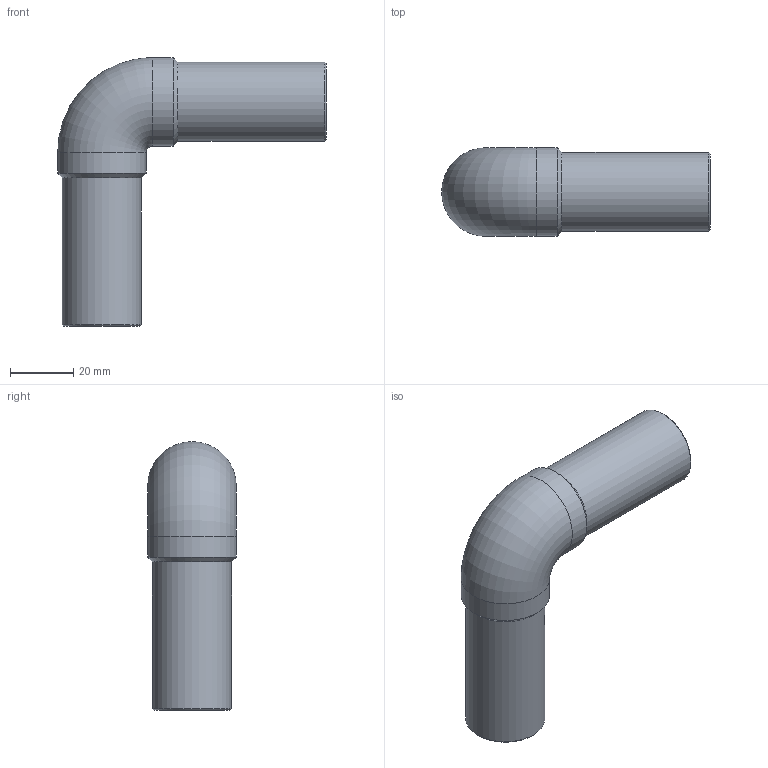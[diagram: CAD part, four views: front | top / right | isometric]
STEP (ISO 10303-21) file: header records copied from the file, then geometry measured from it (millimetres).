
FILE_DESCRIPTION(/* description */ ('Unknown'),/* implementation_level */ '2;1');
FILE_NAME(/* name */ 'G9P025H',/* time_stamp */ '2021-11-15T15:36:24+01:00',/* author */ ('Unknown'),/* organization */ ('Unknown'),/* preprocessor_version */ 'ST-DEVELOPER v16.7',/* originating_system */ 'Solid Edge',/* authorisation */ 'Unknown');
FILE_SCHEMA (('AUTOMOTIVE_DESIGN {1 0 10303 214 3 1 1}'));
Length unit declared in the file: millimetre
Products named in the file (1): G9P025H
Bounding box: 85 x 28 x 85 mm (x, y, z)
Volume: 37189.3 mm3; surface area: 19172 mm2
Topology: 1 solids, 1 shells, 14 faces, 34 edges, 22 vertices
Faces by surface type: cylinder 6, cone 4, plane 2, torus 2
Full cylindrical faces by diameter (mm): 18 x2, 25 x2, 28 x2
Entity records: 368 total; most frequent: CARTESIAN_POINT 68, DIRECTION 60, ORIENTED_EDGE 38, AXIS2_PLACEMENT_3D 30, EDGE_LOOP 27, FACE_BOUND 27, EDGE_CURVE 19, VERTEX_POINT 18
